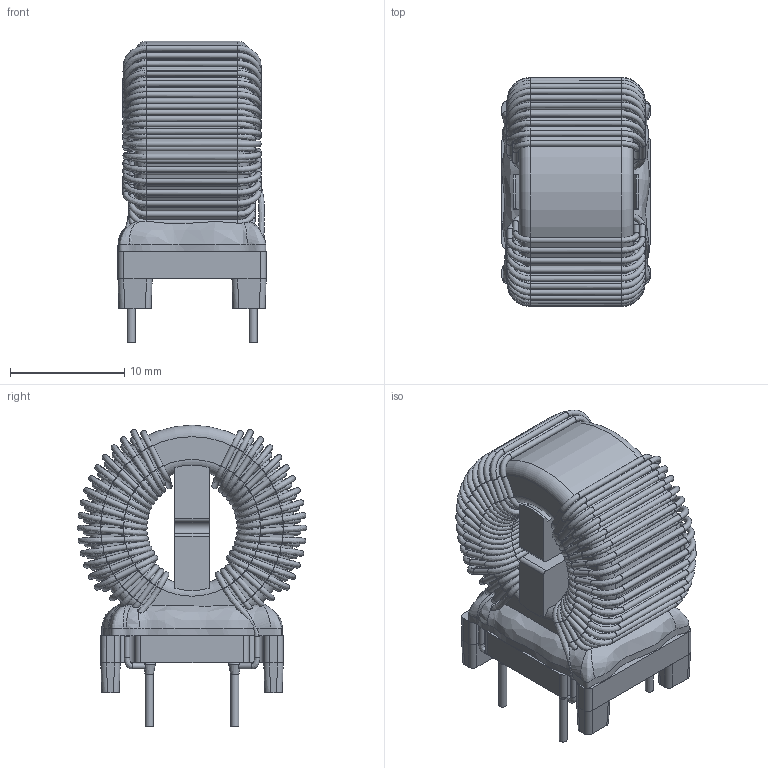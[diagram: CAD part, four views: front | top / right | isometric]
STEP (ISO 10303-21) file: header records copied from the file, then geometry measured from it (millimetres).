
FILE_DESCRIPTION(/* description */ ('Unknown'),/* implementation_level */ '2;1');
FILE_NAME(/* name */ 'L_Wurth_WE-CMB-M_L23W13.8H26.5',/* time_stamp */ '2024-10-11T14:36:48+08:00',/* author */ ('Unknown'),/* organization */ ('Unknown'),/* preprocessor_version */ 'ST-DEVELOPER v16.7',/* originating_system */ 'Solid Edge',/* authorisation */ 'Unknown');
FILE_SCHEMA (('AUTOMOTIVE_DESIGN {1 0 10303 214 3 1 1}'));
Length unit declared in the file: millimetre
Products named in the file (2): L_Wurth_WE-CMB-M_L23W13.8H26.5
Assembly tree (1 placements, depth 2):
  L_Wurth_WE-CMB-M_L23W13.8H26.5
    L_Wurth_WE-CMB-M_L23W13.8H26.5
Bounding box: 13.01 x 20.12 x 26.45 mm (x, y, z)
Volume: 3258.7 mm3; surface area: 6105.3 mm2
Topology: 10 solids, 10 shells, 814 faces, 1927 edges, 1083 vertices
Faces by surface type: cylinder 376, bspline 187, torus 148, plane 94, cone 8, sphere 1
Full cylindrical faces by diameter (mm): 0.5 x258, 0.7 x4, 10 x1, 18 x1
Entity records: 54941 total; most frequent: CARTESIAN_POINT 34785, DIRECTION 2954, ORIENTED_EDGE 2504, EDGE_LOOP 1392, FACE_BOUND 1392, AXIS2_PLACEMENT_3D 1334, EDGE_CURVE 1252, VERTEX_POINT 974
